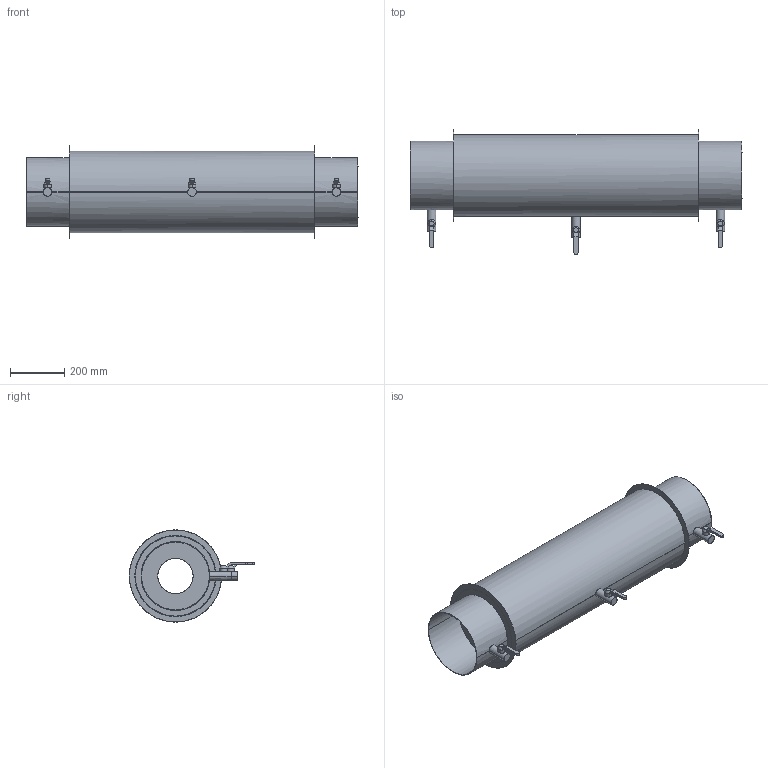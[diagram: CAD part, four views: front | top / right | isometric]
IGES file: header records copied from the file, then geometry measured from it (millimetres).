
Start section:  PTC IGES file: 51541238.igs
Global section: file name: 51541238.igs; native system: Creo Parametric by PTC Inc.; preprocessor: 2019224; author: slc; organization: Unknown; date: 20201008.075543; units: millimetre
Bounding box: 1225 x 462 x 339.76 mm (x, y, z)
Surface area: 2551751.8 mm2 (no closed solid volume)
Topology: 0 solids, 0 shells, 85 faces, 346 edges, 346 vertices
Faces by surface type: bspline 44, revolution 41
